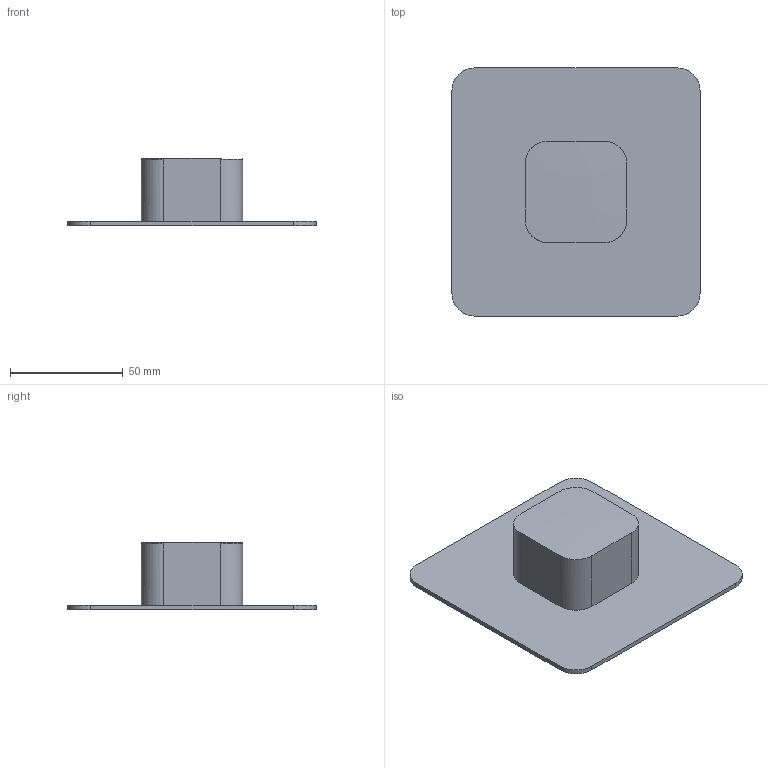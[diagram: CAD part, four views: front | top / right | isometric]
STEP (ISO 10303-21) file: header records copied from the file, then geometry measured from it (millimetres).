
FILE_DESCRIPTION (( 'STEP AP214' ), '1' );
FILE_NAME ('56231510 x architetti.STEP', '2024-11-25T14:36:51', ( '' ), ( '' ), 'SwSTEP 2.0', 'SolidWorks 2020', '' );
FILE_SCHEMA (( 'AUTOMOTIVE_DESIGN' ));
Length unit declared in the file: millimetre
Products named in the file (1): 56231510 x architetti
Bounding box: 110 x 110 x 29.83 mm (x, y, z)
Volume: 77791.7 mm3; surface area: 29363.7 mm2
Topology: 1 solids, 1 shells, 19 faces, 50 edges, 34 vertices
Faces by surface type: plane 10, cylinder 8, bspline 1
Entity records: 940 total; most frequent: CARTESIAN_POINT 233, ORIENTED_EDGE 100, DIRECTION 90, EDGE_CURVE 50, VERTEX_POINT 34, AXIS2_PLACEMENT_3D 31, LINE 28, VECTOR 28
